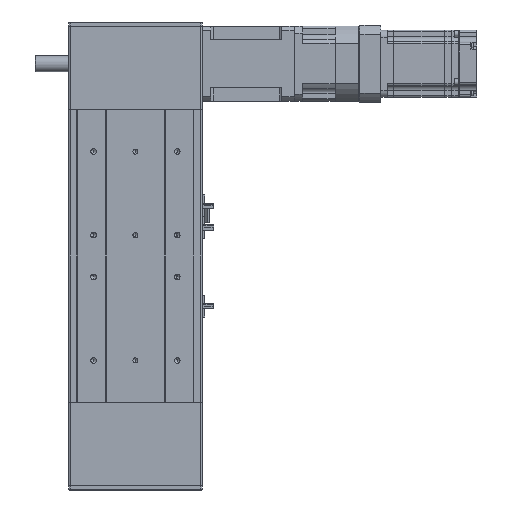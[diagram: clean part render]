
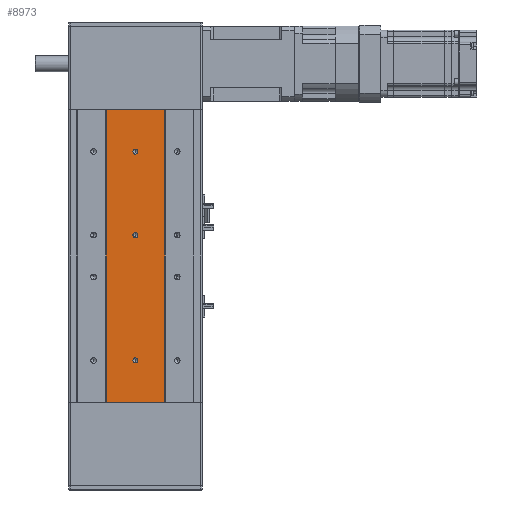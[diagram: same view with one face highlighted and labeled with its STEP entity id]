
A CAD part, front view. The second image highlights one B-rep face of the part: STEP entity #8973.
In plain terms, the highlighted planar face has unit normal (0, -1, 0).
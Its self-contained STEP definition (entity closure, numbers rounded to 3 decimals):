
#8973 = ADVANCED_FACE ( 'NONE', ( #50654, #50657, #50668, #50662 ), #81595, .F. ) ;
#11301 = EDGE_CURVE ( 'NONE', #74997, #74979, #21431, .T. ) ;
#11345 = EDGE_CURVE ( 'NONE', #75008, #74978, #21617, .T. ) ;
#11365 = EDGE_CURVE ( 'NONE', #39713, #39750, #21545, .T. ) ;
#11905 = EDGE_CURVE ( 'NONE', #38824, #38728, #22964, .T. ) ;
#11912 = EDGE_CURVE ( 'NONE', #38810, #38626, #22972, .T. ) ;
#11919 = EDGE_CURVE ( 'NONE', #74979, #74997, #22932, .T. ) ;
#11925 = EDGE_CURVE ( 'NONE', #39750, #39713, #22914, .T. ) ;
#11950 = EDGE_CURVE ( 'NONE', #38810, #38824, #23038, .T. ) ;
#11953 = EDGE_CURVE ( 'NONE', #74978, #75008, #23084, .T. ) ;
#11987 = EDGE_CURVE ( 'NONE', #38626, #38728, #23092, .T. ) ;
#16465 = DIRECTION ( 'NONE',  ( 0., 0., -1. ) ) ;
#16472 = CARTESIAN_POINT ( 'NONE',  ( 35., -51., 175. ) ) ;
#16498 = CARTESIAN_POINT ( 'NONE',  ( -35., -51., 175. ) ) ;
#16502 = CARTESIAN_POINT ( 'NONE',  ( 0., -51., 25. ) ) ;
#16505 = CARTESIAN_POINT ( 'NONE',  ( 0., -51., -125. ) ) ;
#16506 = DIRECTION ( 'NONE',  ( 0., 1., 0. ) ) ;
#16507 = DIRECTION ( 'NONE',  ( 0., 0., 1. ) ) ;
#16508 = DIRECTION ( 'NONE',  ( 0., 1., 0. ) ) ;
#16523 = DIRECTION ( 'NONE',  ( 0., 0., -1. ) ) ;
#16525 = DIRECTION ( 'NONE',  ( 0., 0., 1. ) ) ;
#16544 = DIRECTION ( 'NONE',  ( 1., 0., 0. ) ) ;
#16551 = DIRECTION ( 'NONE',  ( 0., 1., 0. ) ) ;
#16553 = DIRECTION ( 'NONE',  ( 0., 0., 1. ) ) ;
#16563 = CARTESIAN_POINT ( 'NONE',  ( 0., -51., 175. ) ) ;
#16574 = CARTESIAN_POINT ( 'NONE',  ( 0., -51., 125. ) ) ;
#16582 = CARTESIAN_POINT ( 'NONE',  ( 0., -51., -175. ) ) ;
#16641 = DIRECTION ( 'NONE',  ( 0., 1., 0. ) ) ;
#16642 = DIRECTION ( 'NONE',  ( 0., 0., 1. ) ) ;
#16647 = CARTESIAN_POINT ( 'NONE',  ( 0., -51., 125. ) ) ;
#16677 = DIRECTION ( 'NONE',  ( 0., 0., 1. ) ) ;
#16682 = CARTESIAN_POINT ( 'NONE',  ( 0., -51., 25. ) ) ;
#16685 = DIRECTION ( 'NONE',  ( 0., 1., 0. ) ) ;
#16875 = DIRECTION ( 'NONE',  ( 1., 0., 0. ) ) ;
#21431 = CIRCLE ( 'NONE', #36666, 3. ) ;
#21545 = CIRCLE ( 'NONE', #36687, 3. ) ;
#21617 = CIRCLE ( 'NONE', #36668, 3. ) ;
#22904 = VECTOR ( 'NONE', #16465, 1000. ) ;
#22914 = CIRCLE ( 'NONE', #36759, 3. ) ;
#22932 = CIRCLE ( 'NONE', #36738, 3. ) ;
#22964 = LINE ( 'NONE', #16472, #22904 ) ;
#22972 = LINE ( 'NONE', #16498, #23022 ) ;
#23022 = VECTOR ( 'NONE', #16523, 1000. ) ;
#23038 = LINE ( 'NONE', #16563, #23052 ) ;
#23052 = VECTOR ( 'NONE', #16544, 1000. ) ;
#23076 = VECTOR ( 'NONE', #16875, 1000. ) ;
#23084 = CIRCLE ( 'NONE', #36760, 3. ) ;
#23092 = LINE ( 'NONE', #16582, #23076 ) ;
#36666 = AXIS2_PLACEMENT_3D ( 'NONE', #87951, #87986, #87985 ) ;
#36668 = AXIS2_PLACEMENT_3D ( 'NONE', #16647, #16641, #16642 ) ;
#36687 = AXIS2_PLACEMENT_3D ( 'NONE', #16682, #16685, #16677 ) ;
#36738 = AXIS2_PLACEMENT_3D ( 'NONE', #16505, #16506, #16507 ) ;
#36759 = AXIS2_PLACEMENT_3D ( 'NONE', #16502, #16508, #16525 ) ;
#36760 = AXIS2_PLACEMENT_3D ( 'NONE', #16574, #16551, #16553 ) ;
#38626 = VERTEX_POINT ( 'NONE', #64356 ) ;
#38728 = VERTEX_POINT ( 'NONE', #64392 ) ;
#38810 = VERTEX_POINT ( 'NONE', #64495 ) ;
#38824 = VERTEX_POINT ( 'NONE', #64459 ) ;
#39713 = VERTEX_POINT ( 'NONE', #57980 ) ;
#39750 = VERTEX_POINT ( 'NONE', #58018 ) ;
#39933 = ORIENTED_EDGE ( 'NONE', *, *, #11912, .T. ) ;
#39958 = ORIENTED_EDGE ( 'NONE', *, *, #11919, .T. ) ;
#39965 = ORIENTED_EDGE ( 'NONE', *, *, #11905, .F. ) ;
#39984 = ORIENTED_EDGE ( 'NONE', *, *, #11925, .T. ) ;
#41093 = ORIENTED_EDGE ( 'NONE', *, *, #11301, .T. ) ;
#41096 = ORIENTED_EDGE ( 'NONE', *, *, #11953, .T. ) ;
#41123 = ORIENTED_EDGE ( 'NONE', *, *, #11365, .T. ) ;
#41135 = ORIENTED_EDGE ( 'NONE', *, *, #11950, .F. ) ;
#44256 = CARTESIAN_POINT ( 'NONE',  ( 0., -51., 122. ) ) ;
#44262 = CARTESIAN_POINT ( 'NONE',  ( 0., -51., 128. ) ) ;
#44276 = CARTESIAN_POINT ( 'NONE',  ( 0., -51., -128. ) ) ;
#44281 = CARTESIAN_POINT ( 'NONE',  ( 0., -51., -122. ) ) ;
#50654 = FACE_BOUND ( 'NONE', #70067, .T. ) ;
#50657 = FACE_BOUND ( 'NONE', #70099, .T. ) ;
#50662 = FACE_OUTER_BOUND ( 'NONE', #70121, .T. ) ;
#50668 = FACE_BOUND ( 'NONE', #70020, .T. ) ;
#56467 = ORIENTED_EDGE ( 'NONE', *, *, #11345, .T. ) ;
#56476 = ORIENTED_EDGE ( 'NONE', *, *, #11987, .T. ) ;
#57980 = CARTESIAN_POINT ( 'NONE',  ( 0., -51., 22. ) ) ;
#58018 = CARTESIAN_POINT ( 'NONE',  ( 0., -51., 28. ) ) ;
#64356 = CARTESIAN_POINT ( 'NONE',  ( -35., -51., -175. ) ) ;
#64392 = CARTESIAN_POINT ( 'NONE',  ( 35., -51., -175. ) ) ;
#64459 = CARTESIAN_POINT ( 'NONE',  ( 35., -51., 175. ) ) ;
#64495 = CARTESIAN_POINT ( 'NONE',  ( -35., -51., 175. ) ) ;
#70020 = EDGE_LOOP ( 'NONE', ( #41093, #39958 ) ) ;
#70067 = EDGE_LOOP ( 'NONE', ( #56467, #41096 ) ) ;
#70099 = EDGE_LOOP ( 'NONE', ( #41123, #39984 ) ) ;
#70121 = EDGE_LOOP ( 'NONE', ( #56476, #39965, #41135, #39933 ) ) ;
#74978 = VERTEX_POINT ( 'NONE', #44262 ) ;
#74979 = VERTEX_POINT ( 'NONE', #44281 ) ;
#74997 = VERTEX_POINT ( 'NONE', #44276 ) ;
#75008 = VERTEX_POINT ( 'NONE', #44256 ) ;
#81595 = PLANE ( 'NONE',  #84729 ) ;
#81629 = DIRECTION ( 'NONE',  ( 0., 1., 0. ) ) ;
#81682 = DIRECTION ( 'NONE',  ( 0., 0., 1. ) ) ;
#81707 = CARTESIAN_POINT ( 'NONE',  ( 0., -51., 175. ) ) ;
#84729 = AXIS2_PLACEMENT_3D ( 'NONE', #81707, #81629, #81682 ) ;
#87951 = CARTESIAN_POINT ( 'NONE',  ( 0., -51., -125. ) ) ;
#87985 = DIRECTION ( 'NONE',  ( 0., 0., 1. ) ) ;
#87986 = DIRECTION ( 'NONE',  ( 0., 1., 0. ) ) ;
